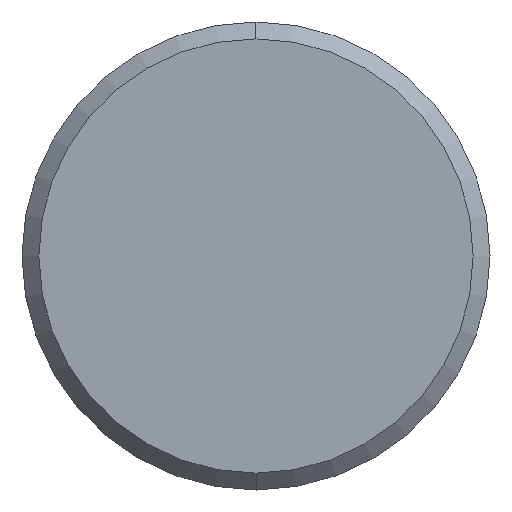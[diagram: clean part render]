
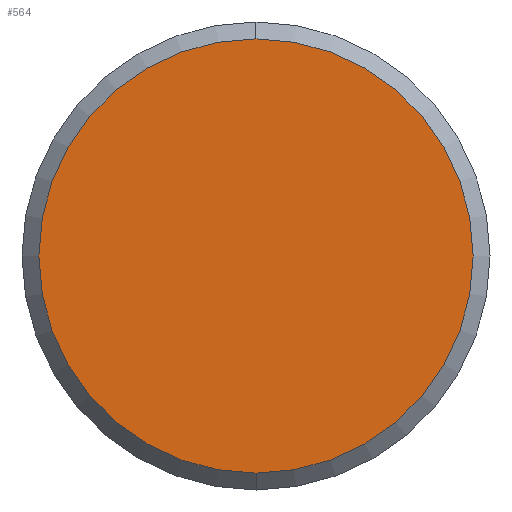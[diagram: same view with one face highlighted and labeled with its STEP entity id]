
A CAD part, left-side view. The second image highlights one B-rep face of the part: STEP entity #564.
In plain terms, the highlighted planar face has unit normal (-1, 0, 0).
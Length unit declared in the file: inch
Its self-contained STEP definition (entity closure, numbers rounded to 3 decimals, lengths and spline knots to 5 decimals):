
#13 = AXIS2_PLACEMENT_3D ( 'NONE', #326, #380, #343 ) ;
#31 = AXIS2_PLACEMENT_3D ( 'NONE', #464, #461, #439 ) ;
#63 = EDGE_CURVE ( 'NONE', #285, #271, #146, .T. ) ;
#67 = AXIS2_PLACEMENT_3D ( 'NONE', #446, #523, #435 ) ;
#69 = EDGE_CURVE ( 'NONE', #271, #285, #164, .T. ) ;
#137 = ORIENTED_EDGE ( 'NONE', *, *, #69, .F. ) ;
#146 = CIRCLE ( 'NONE', #31, 0.8165 ) ;
#148 = EDGE_LOOP ( 'NONE', ( #318, #137 ) ) ;
#154 = FACE_OUTER_BOUND ( 'NONE', #148, .T. ) ;
#164 = CIRCLE ( 'NONE', #13, 0.8165 ) ;
#271 = VERTEX_POINT ( 'NONE', #396 ) ;
#285 = VERTEX_POINT ( 'NONE', #508 ) ;
#318 = ORIENTED_EDGE ( 'NONE', *, *, #63, .F. ) ;
#326 = CARTESIAN_POINT ( 'NONE',  ( -0.501, 0., 0. ) ) ;
#343 = DIRECTION ( 'NONE',  ( 0., 0., -1. ) ) ;
#380 = DIRECTION ( 'NONE',  ( 1., 0., 0. ) ) ;
#396 = CARTESIAN_POINT ( 'NONE',  ( -0.501, 0., 0.8165 ) ) ;
#419 = PLANE ( 'NONE',  #67 ) ;
#435 = DIRECTION ( 'NONE',  ( 0., 0., 1. ) ) ;
#439 = DIRECTION ( 'NONE',  ( 0., 0., -1. ) ) ;
#446 = CARTESIAN_POINT ( 'NONE',  ( -0.501, 0.8165, 0. ) ) ;
#461 = DIRECTION ( 'NONE',  ( 1., 0., 0. ) ) ;
#464 = CARTESIAN_POINT ( 'NONE',  ( -0.501, 0., 0. ) ) ;
#508 = CARTESIAN_POINT ( 'NONE',  ( -0.501, 0., -0.8165 ) ) ;
#523 = DIRECTION ( 'NONE',  ( -1., 0., 0. ) ) ;
#564 = ADVANCED_FACE ( 'NONE', ( #154 ), #419, .T. ) ;
